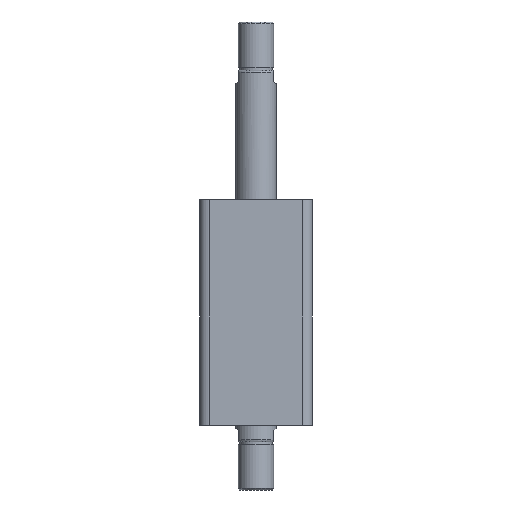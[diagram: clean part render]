
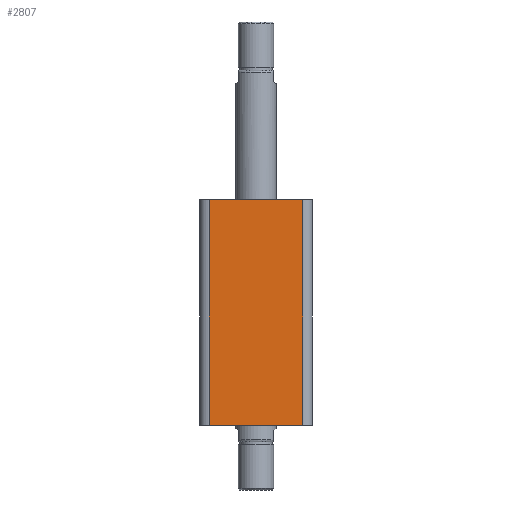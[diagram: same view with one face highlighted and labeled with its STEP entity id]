
A CAD part, front view. The second image highlights one B-rep face of the part: STEP entity #2807.
In plain terms, the highlighted planar face has unit normal (0, -1, 0).
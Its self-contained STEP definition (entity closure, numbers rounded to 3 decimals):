
#75 = EDGE_LOOP ( 'NONE', ( #439, #440, #441, #442 ) ) ;
#439 = ORIENTED_EDGE ( 'NONE', *, *, #1555, .F. ) ;
#440 = ORIENTED_EDGE ( 'NONE', *, *, #1567, .T. ) ;
#441 = ORIENTED_EDGE ( 'NONE', *, *, #553, .T. ) ;
#442 = ORIENTED_EDGE ( 'NONE', *, *, #1571, .T. ) ;
#553 = EDGE_CURVE ( 'NONE', #1706, #1705, #749, .T. ) ;
#749 = LINE ( 'NONE', #2929, #752 ) ;
#752 = VECTOR ( 'NONE', #2953, 1000. ) ;
#807 = LINE ( 'NONE', #1153, #816 ) ;
#816 = VECTOR ( 'NONE', #1149, 1000. ) ;
#828 = LINE ( 'NONE', #1191, #830 ) ;
#830 = VECTOR ( 'NONE', #1190, 1000. ) ;
#834 = LINE ( 'NONE', #1200, #836 ) ;
#836 = VECTOR ( 'NONE', #1201, 1000. ) ;
#1019 = FACE_OUTER_BOUND ( 'NONE', #75, .T. ) ;
#1149 = DIRECTION ( 'NONE',  ( 1., 0., 0. ) ) ;
#1153 = CARTESIAN_POINT ( 'NONE',  ( -35., -35., 140. ) ) ;
#1190 = DIRECTION ( 'NONE',  ( 0., 0., -1. ) ) ;
#1191 = CARTESIAN_POINT ( 'NONE',  ( -29., -35., 140. ) ) ;
#1200 = CARTESIAN_POINT ( 'NONE',  ( 29., -35., 140. ) ) ;
#1201 = DIRECTION ( 'NONE',  ( 0., 0., 1. ) ) ;
#1371 = CARTESIAN_POINT ( 'NONE',  ( 29., -35., 0. ) ) ;
#1378 = CARTESIAN_POINT ( 'NONE',  ( -29., -35., 0. ) ) ;
#1381 = CARTESIAN_POINT ( 'NONE',  ( 29., -35., 140. ) ) ;
#1412 = CARTESIAN_POINT ( 'NONE',  ( -29., -35., 140. ) ) ;
#1555 = EDGE_CURVE ( 'NONE', #1836, #1709, #807, .T. ) ;
#1567 = EDGE_CURVE ( 'NONE', #1836, #1706, #828, .T. ) ;
#1571 = EDGE_CURVE ( 'NONE', #1705, #1709, #834, .T. ) ;
#1705 = VERTEX_POINT ( 'NONE', #1371 ) ;
#1706 = VERTEX_POINT ( 'NONE', #1378 ) ;
#1709 = VERTEX_POINT ( 'NONE', #1381 ) ;
#1836 = VERTEX_POINT ( 'NONE', #1412 ) ;
#2144 = AXIS2_PLACEMENT_3D ( 'NONE', #2394, #2399, #2400 ) ;
#2394 = CARTESIAN_POINT ( 'NONE',  ( -35., -35., 140. ) ) ;
#2396 = PLANE ( 'NONE',  #2144 ) ;
#2399 = DIRECTION ( 'NONE',  ( 0., 1., 0. ) ) ;
#2400 = DIRECTION ( 'NONE',  ( 0., 0., 1. ) ) ;
#2807 = ADVANCED_FACE ( 'NONE', ( #1019 ), #2396, .F. ) ;
#2929 = CARTESIAN_POINT ( 'NONE',  ( -35., -35., 0. ) ) ;
#2953 = DIRECTION ( 'NONE',  ( 1., 0., 0. ) ) ;
